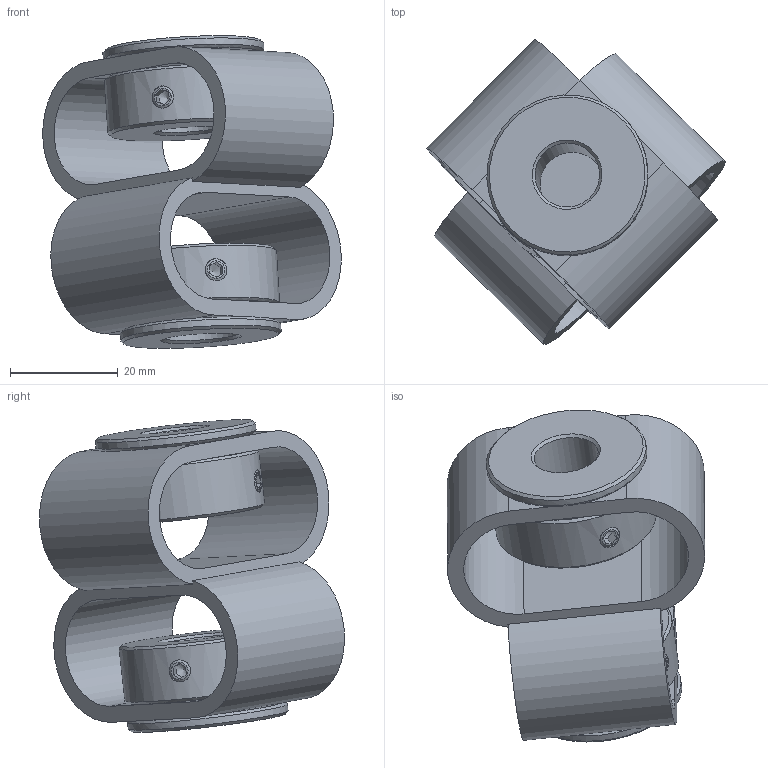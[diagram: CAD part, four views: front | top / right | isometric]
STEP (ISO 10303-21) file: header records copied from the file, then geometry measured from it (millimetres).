
FILE_DESCRIPTION(/* description */ (''),/* implementation_level */ '2;1');
FILE_NAME(/* name */ 'E:\ABP_bauteile\Doppelschlaufenkupplung\DKPS_5658\Doppelschlaufenkupplung_DKPS_5658_12_14.stp',/* time_stamp */ '2015-03-13T11:31:18+01:00',/* author */ ('Rob'),/* organization */ (''),/* preprocessor_version */ 'ST-DEVELOPER v15.6',/* originating_system */ 'Autodesk Inventor 2015',/* authorisation */ '');
FILE_SCHEMA (('CONFIG_CONTROL_DESIGN'));
Length unit declared in the file: millimetre
Products named in the file (1): Bauteil40
Bounding box: 55.53 x 56.74 x 58.16 mm (x, y, z)
Volume: 32268.9 mm3; surface area: 18142.3 mm2
Topology: 1 solids, 1 shells, 142 faces, 360 edges, 218 vertices
Faces by surface type: plane 84, cone 30, cylinder 28
Full cylindrical faces by diameter (mm): 4.134 x8, 12 x1, 14 x1, 21.5 x2, 23 x4, 30 x4
Entity records: 4088 total; most frequent: CARTESIAN_POINT 1027, DIRECTION 646, ORIENTED_EDGE 556, EDGE_CURVE 278, AXIS2_PLACEMENT_3D 257, EDGE_LOOP 210, VERTEX_POINT 182, FACE_OUTER_BOUND 142
